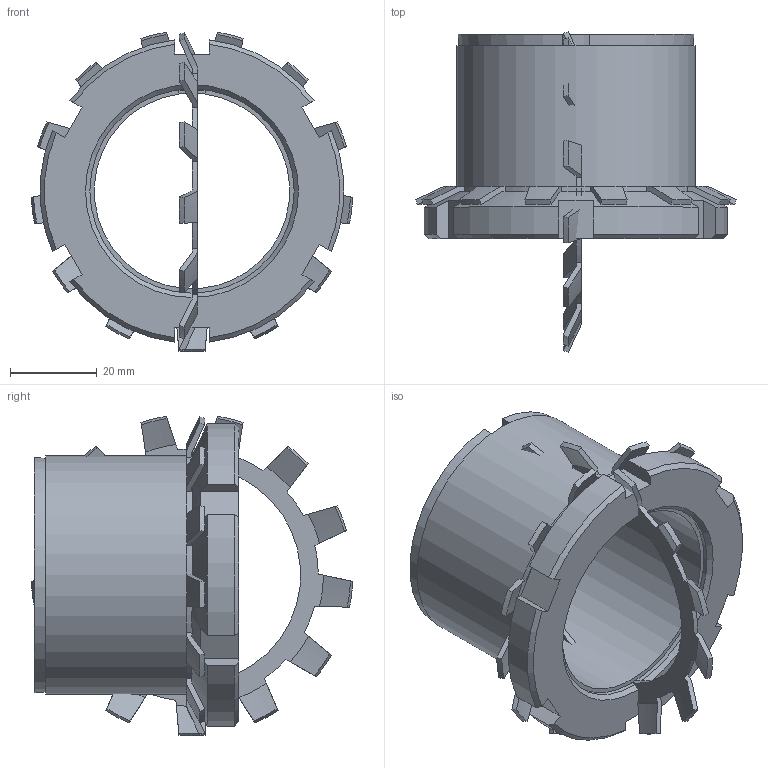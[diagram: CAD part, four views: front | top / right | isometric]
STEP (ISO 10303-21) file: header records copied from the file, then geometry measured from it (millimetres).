
FILE_DESCRIPTION( ( 'Unknown' ), '1' );
FILE_NAME( 'C:/Dokumente und Einstellungen/Sven/Desktop/homepage/cad - homepage/KBS55/KBS 55 - 45 x 55.stp', 'Unknown', ( 'Unknown' ), ( 'Unknown' ), 'XStep 1.0', 'Unknown', ' ' );
FILE_SCHEMA( ( 'automotive_design' ) );
Length unit declared in the file: millimetre
Products named in the file (3): Assem1; KBS 55 - 45 x 55; 08570105_locking_plate_din_5406_mb_10_2_14a
Bounding box: 73.94 x 73.94 x 73.51 mm (x, y, z)
Volume: 98324.6 mm3; surface area: 45622.2 mm2
Topology: 4 solids, 4 shells, 258 faces, 740 edges, 492 vertices
Faces by surface type: plane 114, cone 98, cylinder 46
Full cylindrical faces by diameter (mm): 47 x2, 55 x2
Entity records: 6210 total; most frequent: CARTESIAN_POINT 976, ORIENTED_EDGE 730, DIRECTION 680, EDGE_CURVE 365, STYLED_ITEM 330, PRESENTATION_STYLE_ASSIGNMENT 330, COLOUR_RGB 330, AXIS2_PLACEMENT_3D 267
